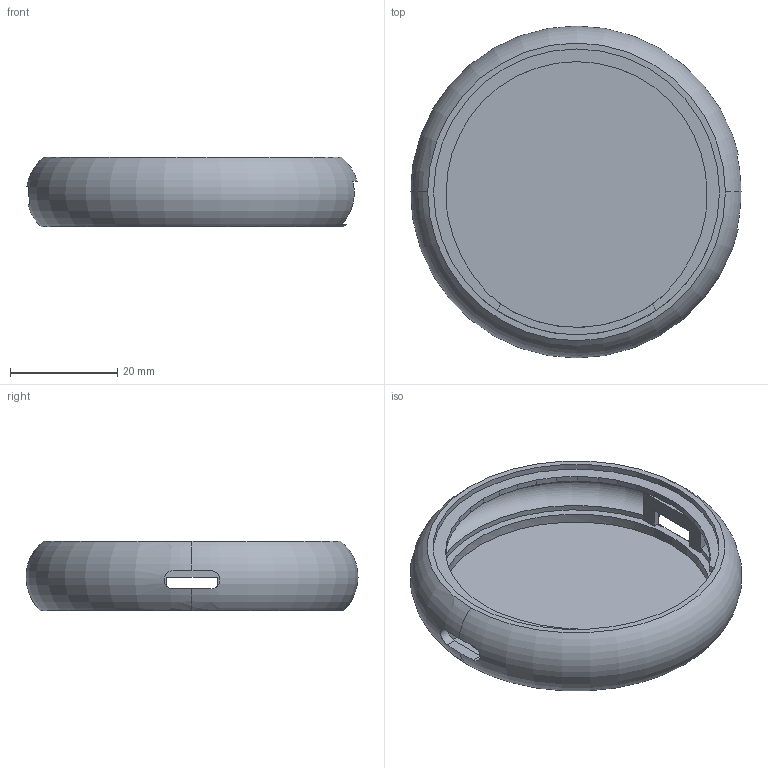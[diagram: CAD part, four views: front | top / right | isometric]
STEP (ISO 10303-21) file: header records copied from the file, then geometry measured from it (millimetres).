
FILE_DESCRIPTION (( 'STEP AP203' ), '1' );
FILE_NAME ('V11_Cup.step', '2026-10-04T08:08:07', ( '' ), ( '' ), 'SwSTEP 2.0', 'SolidWorks 2026', '' );
FILE_SCHEMA (( 'CONFIG_CONTROL_DESIGN' ));
Length unit declared in the file: millimetre
Products named in the file (1): V11_Cup
Bounding box: 61.63 x 62 x 13 mm (x, y, z)
Volume: 8076.1 mm3; surface area: 11135.5 mm2
Topology: 1 solids, 1 shells, 85 faces, 250 edges, 166 vertices
Faces by surface type: plane 72, cylinder 9, torus 4
Entity records: 3058 total; most frequent: CARTESIAN_POINT 688, ORIENTED_EDGE 500, DIRECTION 455, EDGE_CURVE 250, LINE 189, VECTOR 189, VERTEX_POINT 166, AXIS2_PLACEMENT_3D 133
